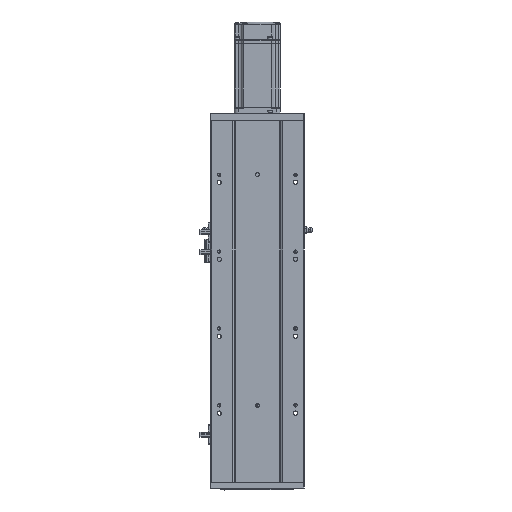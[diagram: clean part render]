
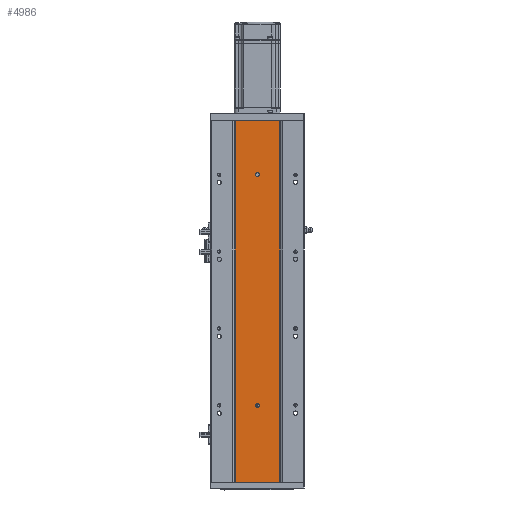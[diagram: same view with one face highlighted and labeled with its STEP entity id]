
A CAD part, front view. The second image highlights one B-rep face of the part: STEP entity #4986.
In plain terms, the highlighted planar face has unit normal (0, -1, 0).
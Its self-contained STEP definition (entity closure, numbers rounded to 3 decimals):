
#3843 = LINE ( 'NONE', #62431, #54485 ) ;
#4986 = ADVANCED_FACE ( 'NONE', ( #26292, #57784, #17671 ), #56501, .F. ) ;
#6169 = CIRCLE ( 'NONE', #50656, 2.5 ) ;
#8106 = CARTESIAN_POINT ( 'NONE',  ( 134.998, 50.307, 102.5 ) ) ;
#11429 = VERTEX_POINT ( 'NONE', #31637 ) ;
#11782 = VECTOR ( 'NONE', #71672, 1000. ) ;
#13923 = CARTESIAN_POINT ( 'NONE',  ( 134.998, 50.307, 402.5 ) ) ;
#14075 = DIRECTION ( 'NONE',  ( 0., 1., 0. ) ) ;
#14683 = DIRECTION ( 'NONE',  ( 0., -1., 0. ) ) ;
#14684 = LINE ( 'NONE', #32259, #40414 ) ;
#17671 = FACE_OUTER_BOUND ( 'NONE', #56611, .T. ) ;
#17986 = EDGE_LOOP ( 'NONE', ( #45554, #52215 ) ) ;
#19982 = CARTESIAN_POINT ( 'NONE',  ( 0., 50.307, 470. ) ) ;
#20047 = ORIENTED_EDGE ( 'NONE', *, *, #27289, .F. ) ;
#20420 = LINE ( 'NONE', #23348, #11782 ) ;
#20750 = CARTESIAN_POINT ( 'NONE',  ( 134.998, 50.307, 400. ) ) ;
#21279 = DIRECTION ( 'NONE',  ( 0., 0., -1. ) ) ;
#23348 = CARTESIAN_POINT ( 'NONE',  ( 0., 50.307, 0. ) ) ;
#26292 = FACE_BOUND ( 'NONE', #26477, .T. ) ;
#26477 = EDGE_LOOP ( 'NONE', ( #68338, #20047 ) ) ;
#26573 = CARTESIAN_POINT ( 'NONE',  ( 105.998, 50.307, 0. ) ) ;
#27004 = VECTOR ( 'NONE', #31499, 1000. ) ;
#27289 = EDGE_CURVE ( 'NONE', #44748, #44519, #40802, .T. ) ;
#27347 = VERTEX_POINT ( 'NONE', #77862 ) ;
#27486 = DIRECTION ( 'NONE',  ( 0., 0., -1. ) ) ;
#29127 = AXIS2_PLACEMENT_3D ( 'NONE', #67576, #49730, #55824 ) ;
#30162 = EDGE_CURVE ( 'NONE', #44519, #44748, #51972, .T. ) ;
#31499 = DIRECTION ( 'NONE',  ( 1., 0., 0. ) ) ;
#31637 = CARTESIAN_POINT ( 'NONE',  ( 163.998, 50.307, 0. ) ) ;
#32259 = CARTESIAN_POINT ( 'NONE',  ( 105.998, 50.307, 470. ) ) ;
#36498 = VERTEX_POINT ( 'NONE', #26573 ) ;
#37748 = EDGE_CURVE ( 'NONE', #59135, #45851, #6169, .T. ) ;
#39086 = EDGE_CURVE ( 'NONE', #36498, #11429, #20420, .T. ) ;
#39406 = DIRECTION ( 'NONE',  ( 0., 0., -1. ) ) ;
#39935 = EDGE_CURVE ( 'NONE', #66135, #27347, #78575, .T. ) ;
#40241 = AXIS2_PLACEMENT_3D ( 'NONE', #19982, #14075, #57052 ) ;
#40414 = VECTOR ( 'NONE', #69617, 1000. ) ;
#40802 = CIRCLE ( 'NONE', #77250, 2.5 ) ;
#44519 = VERTEX_POINT ( 'NONE', #60646 ) ;
#44748 = VERTEX_POINT ( 'NONE', #13923 ) ;
#45554 = ORIENTED_EDGE ( 'NONE', *, *, #37748, .F. ) ;
#45851 = VERTEX_POINT ( 'NONE', #8106 ) ;
#48982 = EDGE_CURVE ( 'NONE', #27347, #11429, #3843, .T. ) ;
#49730 = DIRECTION ( 'NONE',  ( 0., -1., 0. ) ) ;
#50656 = AXIS2_PLACEMENT_3D ( 'NONE', #76574, #76049, #21279 ) ;
#51972 = CIRCLE ( 'NONE', #60480, 2.5 ) ;
#52215 = ORIENTED_EDGE ( 'NONE', *, *, #54404, .F. ) ;
#54404 = EDGE_CURVE ( 'NONE', #45851, #59135, #57110, .T. ) ;
#54485 = VECTOR ( 'NONE', #68797, 1000. ) ;
#55824 = DIRECTION ( 'NONE',  ( 0., 0., -1. ) ) ;
#56501 = PLANE ( 'NONE',  #40241 ) ;
#56611 = EDGE_LOOP ( 'NONE', ( #61107, #78895, #63778, #60794 ) ) ;
#57052 = DIRECTION ( 'NONE',  ( -1., 0., 0. ) ) ;
#57110 = CIRCLE ( 'NONE', #29127, 2.5 ) ;
#57784 = FACE_BOUND ( 'NONE', #17986, .T. ) ;
#59133 = CARTESIAN_POINT ( 'NONE',  ( 105.998, 50.307, 470. ) ) ;
#59135 = VERTEX_POINT ( 'NONE', #66389 ) ;
#60480 = AXIS2_PLACEMENT_3D ( 'NONE', #64075, #14683, #27486 ) ;
#60646 = CARTESIAN_POINT ( 'NONE',  ( 134.998, 50.307, 397.5 ) ) ;
#60794 = ORIENTED_EDGE ( 'NONE', *, *, #71978, .T. ) ;
#61107 = ORIENTED_EDGE ( 'NONE', *, *, #39086, .T. ) ;
#61963 = CARTESIAN_POINT ( 'NONE',  ( 0., 50.307, 470. ) ) ;
#62431 = CARTESIAN_POINT ( 'NONE',  ( 163.998, 50.307, 470. ) ) ;
#63778 = ORIENTED_EDGE ( 'NONE', *, *, #39935, .F. ) ;
#64075 = CARTESIAN_POINT ( 'NONE',  ( 134.998, 50.307, 400. ) ) ;
#66135 = VERTEX_POINT ( 'NONE', #59133 ) ;
#66389 = CARTESIAN_POINT ( 'NONE',  ( 134.998, 50.307, 97.5 ) ) ;
#67576 = CARTESIAN_POINT ( 'NONE',  ( 134.998, 50.307, 100. ) ) ;
#68338 = ORIENTED_EDGE ( 'NONE', *, *, #30162, .F. ) ;
#68797 = DIRECTION ( 'NONE',  ( 0., 0., -1. ) ) ;
#69617 = DIRECTION ( 'NONE',  ( 0., 0., -1. ) ) ;
#71672 = DIRECTION ( 'NONE',  ( 1., 0., 0. ) ) ;
#71978 = EDGE_CURVE ( 'NONE', #66135, #36498, #14684, .T. ) ;
#75518 = DIRECTION ( 'NONE',  ( 0., -1., 0. ) ) ;
#76049 = DIRECTION ( 'NONE',  ( 0., -1., 0. ) ) ;
#76574 = CARTESIAN_POINT ( 'NONE',  ( 134.998, 50.307, 100. ) ) ;
#77250 = AXIS2_PLACEMENT_3D ( 'NONE', #20750, #75518, #39406 ) ;
#77862 = CARTESIAN_POINT ( 'NONE',  ( 163.998, 50.307, 470. ) ) ;
#78575 = LINE ( 'NONE', #61963, #27004 ) ;
#78895 = ORIENTED_EDGE ( 'NONE', *, *, #48982, .F. ) ;
